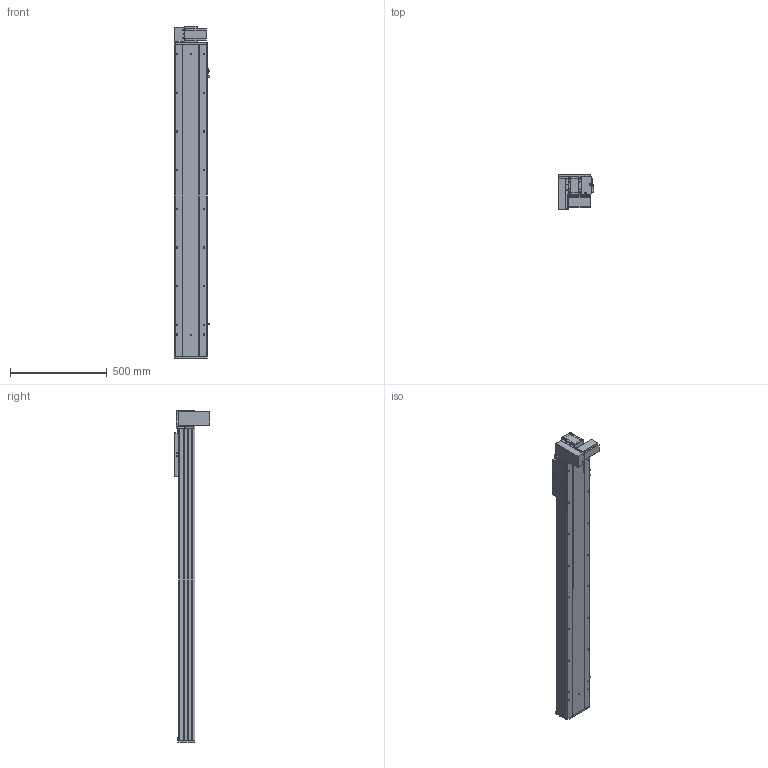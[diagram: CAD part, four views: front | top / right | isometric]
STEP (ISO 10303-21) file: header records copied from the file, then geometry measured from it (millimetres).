
FILE_DESCRIPTION (( 'STEP AP203' ), '1' );
FILE_NAME ('Y170CB-D105-S1300-BM-P400W.STEP', '2020-02-20T06:42:49', ( '微软用户' ), ( '微软中国' ), 'SwSTEP 2.0', 'SolidWorks 2017', '' );
FILE_SCHEMA (( 'CONFIG_CONTROL_DESIGN' ));
Length unit declared in the file: millimetre
Products named in the file (18): 70B喘謫眊----; 70C-雄赽釱-奻-; B-源倛裔啣; Y170CB-D105-S1300-BM-P400W; 0C--雄赽釱俋欶-170; 0B-萇儂楊擘啣; 70CB-詩湍--; san松下电机400不带刹车----; Y100-135俋离換覜ん--; 70CB-掛极-; Y170CB-陔俋离換覜結え---; --70CB --喘謫眊楊擘啣-; Y1埴倛裔; 70CB-耜裔啣-; 17B-耜蚾蟀諉啣----; 70C--詩湍揤踡え-; 00B-俋欶BM--163; 70CB--耜裔
Assembly tree (21 placements, depth 2):
  Y170CB-D105-S1300-BM-P400W
    B-源倛裔啣
    0B-萇儂楊擘啣
    san松下电机400不带刹车----
    70CB-掛极-
    --70CB --喘謫眊楊擘啣-
    70CB-耜裔啣-  x2
    70C--詩湍揤踡え-  x2
    70CB--耜裔
    70C-雄赽釱-奻-
    0C--雄赽釱俋欶-170
    70CB-詩湍--
    Y100-135俋离換覜ん--  x3
    Y170CB-陔俋离換覜結え---
    Y1埴倛裔
    17B-耜蚾蟀諉啣----
    00B-俋欶BM--163
    70B喘謫眊----
Bounding box: 183.5 x 184 x 1716 mm (x, y, z)
Volume: 7720115.6 mm3; surface area: 2774091.3 mm2
Topology: 21 solids, 21 shells, 1023 faces, 2741 edges, 1818 vertices
Faces by surface type: cylinder 537, plane 462, cone 24
Entity records: 32620 total; most frequent: CARTESIAN_POINT 5976, DIRECTION 5306, ORIENTED_EDGE 4964, EDGE_CURVE 2482, AXIS2_PLACEMENT_3D 1948, VERTEX_POINT 1648, LINE 1410, VECTOR 1410
